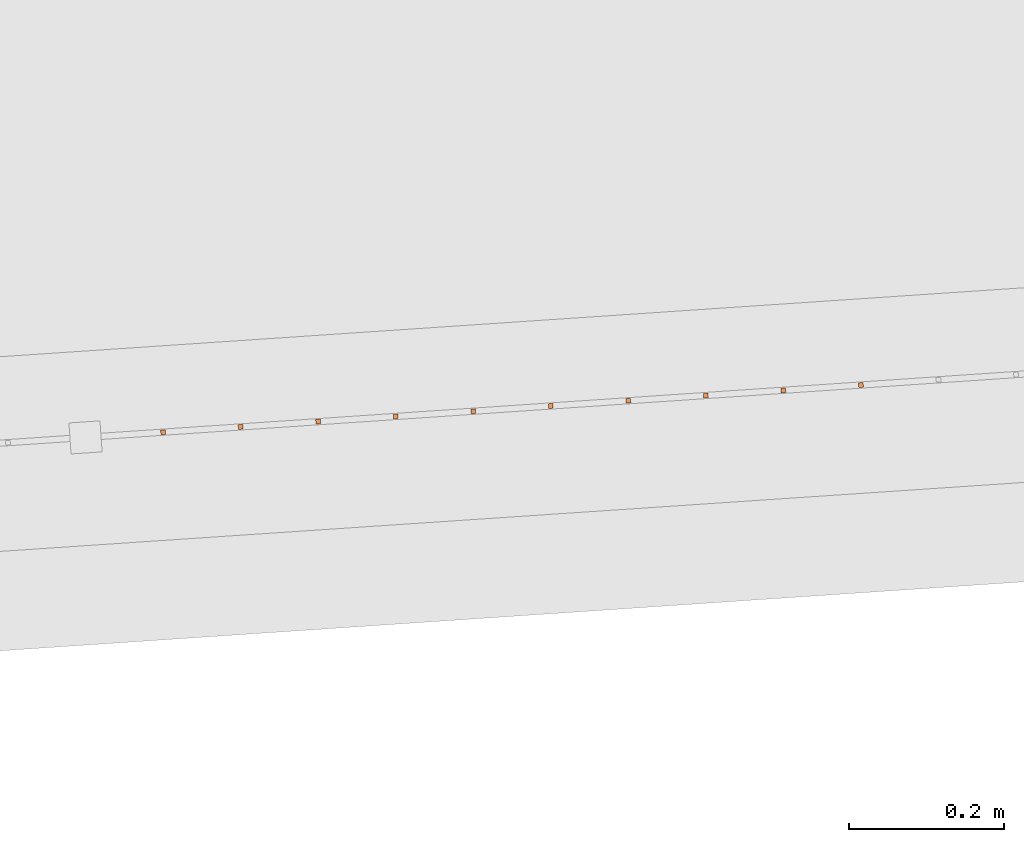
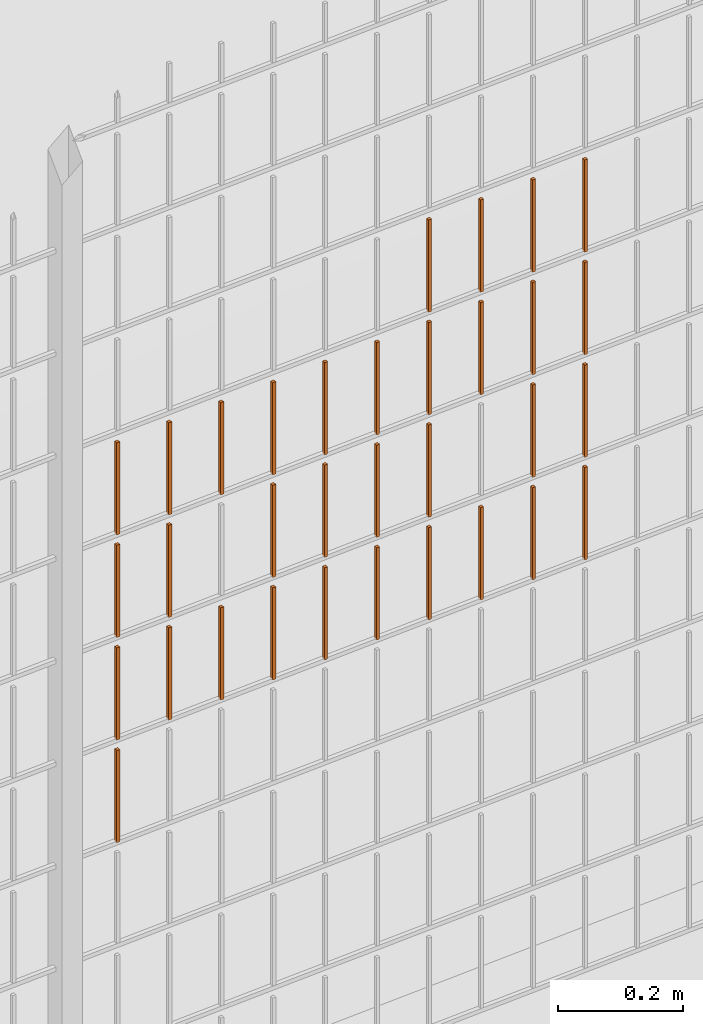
# One storey, part 197 of 1809: 33 proxies, 1 element without a shape of its own.
"""IFC2X3 building model written with IfcOpenShell, lengths in millimetres."""

from ifc_helpers import new_model, entity, si_unit, converted_unit, derived_unit, money_unit, direction, frame, origin_with_axes, place, context, subcontext, project, spatial, faceted_brep, source, transform, mapped, material, type_object, element, aggregate, save


model = new_model("IFC2X3")

# Units and contexts
model_context = context("Model", 3, precision=0.01, world=origin_with_axes(), true_north=direction((0.0, 1.0)))
body_context = subcontext(model_context, "Body", "Model", "MODEL_VIEW")
ifc_project = project(units=[si_unit("LENGTHUNIT", "METRE", prefix="MILLI"), si_unit("AREAUNIT", "SQUARE_METRE"), si_unit("VOLUMEUNIT", "CUBIC_METRE"), converted_unit("PLANEANGLEUNIT", "DEGREE", entity("IfcPlaneAngleMeasure", 0.0174532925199), si_unit("PLANEANGLEUNIT", "RADIAN"), dimensions=[0, 0, 0, 0, 0, 0, 0]), si_unit("SOLIDANGLEUNIT", "STERADIAN"), money_unit("EUR"), converted_unit("TIMEUNIT", "Year", entity("IfcTimeMeasure", 31556926.0), si_unit("TIMEUNIT", "SECOND"), dimensions=[0, 0, 1, 0, 0, 0, 0]), si_unit("MASSUNIT", "GRAM", prefix="KILO"), si_unit("THERMODYNAMICTEMPERATUREUNIT", "DEGREE_CELSIUS"), si_unit("LUMINOUSINTENSITYUNIT", "LUMEN"), si_unit("ENERGYUNIT", "JOULE", prefix="MEGA"), derived_unit("THERMALCONDUCTANCEUNIT", [(si_unit("POWERUNIT", "WATT"), 1), (si_unit("LENGTHUNIT", "METRE"), -1), (si_unit("THERMODYNAMICTEMPERATUREUNIT", "KELVIN"), -1)]), derived_unit("SPECIFICHEATCAPACITYUNIT", [(si_unit("ENERGYUNIT", "JOULE"), 1), (si_unit("MASSUNIT", "GRAM", prefix="KILO"), -1), (si_unit("THERMODYNAMICTEMPERATUREUNIT", "KELVIN"), -1)]), derived_unit("MASSDENSITYUNIT", [(si_unit("MASSUNIT", "GRAM", prefix="KILO"), 1), (si_unit("VOLUMEUNIT", "CUBIC_METRE"), -1)])], contexts=[model_context])

# Site, building, storey
site_placement = place(None, origin_with_axes())
site = spatial("IfcSite", under=ifc_project, at=site_placement, Name="Politse- ja Piirivalveameti ning Päästeameti ühishoone", CompositionType="ELEMENT")
building_placement = place(site_placement, origin_with_axes())
building = spatial("IfcBuilding", under=site, at=building_placement, Name="Politse- ja Piirivalveameti ning Päästeameti ühishoone", CompositionType="ELEMENT")
storey_placement = place(building_placement, origin_with_axes())
storey = spatial("IfcBuildingStorey", under=building, at=storey_placement, Name="Esimene korrus", CompositionType="ELEMENT", Elevation=0.0)

# Proxies
building_element_proxy_type_1 = type_object("IfcBuildingElementProxyType", Name="Railing Type", PredefinedType="NOTDEFINED")
proxy_1_placement = place(storey_placement, frame((89252.001212, -29183.4766571, 203.661247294), z_axis=(0.0, 0.0, 1.0), x_axis=(1.0, 0.0, 0.0)))
proxy_1 = element("IfcBuildingElementProxy", 1, at=proxy_1_placement, inside=storey, type_object=building_element_proxy_type_1, Name="PIIRDEAED")
ifc_material = material(Name="ET-03_Raud")
building_element_proxy_type_2 = type_object("IfcBuildingElementProxyType", Name="IfcBuildingElementProxy", PredefinedType="NOTDEFINED")
shared_shape_1 = source(origin_with_axes(), body_context, "Body", "Brep", [
    faceted_brep([(3.0, 3.0, -0.000752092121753), (-3.0, 3.0, -0.000752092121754), (-3.0, 3.0, 179.99926046), (3.0, 3.0, 179.99926046), (3.0, -3.0, 0.000752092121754), (-3.0, -3.0, 0.000752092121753), (-3.0, -3.0, 180.000764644), (3.0, -3.0, 180.000764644)], [[[0, 1, 2, 3]], [[0, 4, 5, 1]], [[1, 5, 6, 2]], [[3, 2, 6, 7]], [[4, 0, 3, 7]], [[5, 4, 7, 6]]]),
])
proxy_2_placement = place(proxy_1_placement, frame((-66375.4415557, -21781.1853468, 810.556319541), z_axis=(0.0, 0.0, 1.0), x_axis=(1.0, 0.0, 0.0)))
proxy_2 = element("IfcBuildingElementProxy", 2, at=proxy_2_placement, type_object=building_element_proxy_type_2, material=ifc_material, Name="BALUSTER - 001", context=body_context, shape_type="MappedRepresentation", body=[
    mapped(shared_shape_1, transform((0.0, 0.0, 0.0), x_axis=(-0.0673926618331, 0.997726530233, 0.0), y_axis=(-0.997726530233, -0.0673926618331, 0.0), z_axis=(0.0, 0.0, 1.0))),
])
shared_shape_2 = source(origin_with_axes(), body_context, "Body", "Brep", [
    faceted_brep([(3.0, 3.0, -0.000752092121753), (-3.0, 3.0, -0.000752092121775), (-3.0, 3.0, 179.99926046), (3.0, 3.0, 179.99926046), (3.0, -3.0, 0.000752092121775), (-3.0, -3.0, 0.000752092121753), (-3.0, -3.0, 180.000764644), (3.0, -3.0, 180.000764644)], [[[0, 1, 2, 3]], [[0, 4, 5, 1]], [[1, 5, 6, 2]], [[3, 2, 6, 7]], [[4, 0, 3, 7]], [[5, 4, 7, 6]]]),
])
proxy_3_placement = place(proxy_1_placement, frame((-66974.0774738, -21821.6209439, 1210.40590112), z_axis=(0.0, 0.0, 1.0), x_axis=(1.0, 0.0, 0.0)))
proxy_3 = element("IfcBuildingElementProxy", 3, at=proxy_3_placement, type_object=building_element_proxy_type_2, material=ifc_material, Name="BALUSTER - 001", context=body_context, shape_type="MappedRepresentation", body=[
    mapped(shared_shape_2, transform((0.0, 0.0, 0.0), x_axis=(-0.0673926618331, 0.997726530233, 0.0), y_axis=(-0.997726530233, -0.0673926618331, 0.0), z_axis=(0.0, 0.0, 1.0))),
])
shared_shape_3 = source(origin_with_axes(), body_context, "Body", "Brep", [
    faceted_brep([(3.0, 3.0, -0.000752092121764), (-3.0, 3.0, -0.000752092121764), (-3.0, 3.0, 179.99926046), (3.0, 3.0, 179.99926046), (3.0, -3.0, 0.000752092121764), (-3.0, -3.0, 0.000752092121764), (-3.0, -3.0, 180.000764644), (3.0, -3.0, 180.000764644)], [[[0, 1, 2, 3]], [[0, 4, 5, 1]], [[1, 5, 6, 2]], [[3, 2, 6, 7]], [[4, 0, 3, 7]], [[5, 4, 7, 6]]]),
])
proxy_4_placement = place(proxy_1_placement, frame((-66175.8962496, -21767.7068144, 810.606459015), z_axis=(0.0, 0.0, 1.0), x_axis=(1.0, 0.0, 0.0)))
proxy_4 = element("IfcBuildingElementProxy", 4, at=proxy_4_placement, type_object=building_element_proxy_type_2, material=ifc_material, Name="BALUSTER - 001", context=body_context, shape_type="MappedRepresentation", body=[
    mapped(shared_shape_3, transform((0.0, 0.0, 0.0), x_axis=(-0.0673926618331, 0.997726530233, 0.0), y_axis=(-0.997726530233, -0.0673926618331, 0.0), z_axis=(0.0, 0.0, 1.0))),
])
shared_shape_4 = source(origin_with_axes(), body_context, "Body", "Brep", [
    faceted_brep([(3.0, 3.0, -0.000752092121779), (-3.0, 3.0, -0.000752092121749), (-3.00000000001, 3.0, 179.99926046), (2.99999999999, 3.0, 179.99926046), (3.0, -3.0, 0.000752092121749), (-3.0, -3.0, 0.000752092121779), (-3.00000000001, -3.0, 180.000764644), (2.99999999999, -3.0, 180.000764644)], [[[0, 1, 2, 3]], [[0, 4, 5, 1]], [[1, 5, 6, 2]], [[3, 2, 6, 7]], [[4, 0, 3, 7]], [[5, 4, 7, 6]]]),
])
proxy_5_placement = place(proxy_1_placement, frame((-67073.8501268, -21828.3602101, 1010.38083138), z_axis=(0.0, 0.0, 1.0), x_axis=(1.0, 0.0, 0.0)))
proxy_5 = element("IfcBuildingElementProxy", 5, at=proxy_5_placement, type_object=building_element_proxy_type_2, material=ifc_material, Name="BALUSTER - 001", context=body_context, shape_type="MappedRepresentation", body=[
    mapped(shared_shape_4, transform((0.0, 0.0, 0.0), x_axis=(-0.0673926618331, 0.997726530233, 0.0), y_axis=(-0.997726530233, -0.0673926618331, 0.0), z_axis=(0.0, 0.0, 1.0))),
])
shared_shape_5 = source(origin_with_axes(), body_context, "Body", "Brep", [
    faceted_brep([(3.0, 3.0, -0.000752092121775), (-3.0, 3.0, -0.000752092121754), (-3.0, 3.0, 179.99926046), (3.0, 3.0, 179.99926046), (3.0, -3.0, 0.000752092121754), (-3.0, -3.0, 0.000752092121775), (-3.0, -3.0, 180.000764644), (3.0, -3.0, 180.000764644)], [[[0, 1, 2, 3]], [[0, 4, 5, 1]], [[1, 5, 6, 2]], [[3, 2, 6, 7]], [[4, 0, 3, 7]], [[5, 4, 7, 6]]]),
])
proxy_6_placement = place(proxy_1_placement, frame((-67073.8501268, -21828.3602101, 610.380831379), z_axis=(0.0, 0.0, 1.0), x_axis=(1.0, 0.0, 0.0)))
proxy_6 = element("IfcBuildingElementProxy", 6, at=proxy_6_placement, type_object=building_element_proxy_type_2, material=ifc_material, Name="BALUSTER - 001", context=body_context, shape_type="MappedRepresentation", body=[
    mapped(shared_shape_5, transform((0.0, 0.0, 0.0), x_axis=(-0.0673926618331, 0.997726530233, 0.0), y_axis=(-0.997726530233, -0.0673926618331, 0.0), z_axis=(0.0, 0.0, 1.0))),
])
shared_shape_6 = source(origin_with_axes(), body_context, "Body", "Brep", [
    faceted_brep([(3.0, 3.0, -0.000752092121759), (-3.0, 3.0, -0.000752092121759), (-3.0, 3.0, 179.99926046), (3.0, 3.0, 179.99926046), (3.0, -3.0, 0.000752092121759), (-3.0, -3.0, 0.000752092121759), (-3.0, -3.0, 180.000764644), (3.0, -3.0, 180.000764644)], [[[0, 1, 2, 3]], [[0, 4, 5, 1]], [[1, 5, 6, 2]], [[3, 2, 6, 7]], [[4, 0, 3, 7]], [[5, 4, 7, 6]]]),
])
proxy_7_placement = place(proxy_1_placement, frame((-66574.9868617, -21794.6638792, 810.506180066), z_axis=(0.0, 0.0, 1.0), x_axis=(1.0, 0.0, 0.0)))
proxy_7 = element("IfcBuildingElementProxy", 7, at=proxy_7_placement, type_object=building_element_proxy_type_2, material=ifc_material, Name="BALUSTER - 001", context=body_context, shape_type="MappedRepresentation", body=[
    mapped(shared_shape_6, transform((0.0, 0.0, 0.0), x_axis=(-0.0673926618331, 0.997726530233, 0.0), y_axis=(-0.997726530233, -0.0673926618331, 0.0), z_axis=(0.0, 0.0, 1.0))),
])
proxy_8_placement = place(proxy_1_placement, frame((-66574.9868617, -21794.6638792, 1210.50618007), z_axis=(0.0, 0.0, 1.0), x_axis=(1.0, 0.0, 0.0)))
proxy_8 = element("IfcBuildingElementProxy", 8, at=proxy_8_placement, type_object=building_element_proxy_type_2, material=ifc_material, Name="BALUSTER - 001", context=body_context, shape_type="MappedRepresentation", body=[
    mapped(shared_shape_6, transform((0.0, 0.0, 0.0), x_axis=(-0.0673926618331, 0.997726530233, 0.0), y_axis=(-0.997726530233, -0.0673926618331, 0.0), z_axis=(0.0, 0.0, 1.0))),
])
shared_shape_7 = source(origin_with_axes(), body_context, "Body", "Brep", [
    faceted_brep([(3.0, 3.0, -0.000752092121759), (-3.0, 3.0, -0.000752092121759), (-3.0, 3.0, 179.99926046), (3.0, 3.0, 179.99926046), (3.0, -3.0, 0.000752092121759), (-3.0, -3.0, 0.000752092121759), (-3.0, -3.0, 180.000764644), (3.0, -3.0, 180.000764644)], [[[0, 1, 2, 3]], [[0, 4, 5, 1]], [[1, 5, 6, 2]], [[3, 2, 6, 7]], [[4, 0, 3, 7]], [[5, 4, 7, 6]]]),
])
proxy_9_placement = place(proxy_1_placement, frame((-66275.6689027, -21774.4460806, 810.581389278), z_axis=(0.0, 0.0, 1.0), x_axis=(1.0, 0.0, 0.0)))
proxy_9 = element("IfcBuildingElementProxy", 9, at=proxy_9_placement, type_object=building_element_proxy_type_2, material=ifc_material, Name="BALUSTER - 001", context=body_context, shape_type="MappedRepresentation", body=[
    mapped(shared_shape_7, transform((0.0, 0.0, 0.0), x_axis=(-0.0673926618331, 0.997726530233, 0.0), y_axis=(-0.997726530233, -0.0673926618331, 0.0), z_axis=(0.0, 0.0, 1.0))),
])
shared_shape_8 = source(origin_with_axes(), body_context, "Body", "Brep", [
    faceted_brep([(3.0, 3.0, -0.000752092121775), (-3.0, 3.0, -0.000752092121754), (-3.0, 3.0, 179.99926046), (3.0, 3.0, 179.99926046), (3.0, -3.0, 0.000752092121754), (-3.0, -3.0, 0.000752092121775), (-3.0, -3.0, 180.000764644), (3.0, -3.0, 180.000764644)], [[[0, 1, 2, 3]], [[0, 4, 5, 1]], [[1, 5, 6, 2]], [[3, 2, 6, 7]], [[4, 0, 3, 7]], [[5, 4, 7, 6]]]),
])
proxy_10_placement = place(proxy_1_placement, frame((-66475.2142087, -21787.924613, 1210.5312498), z_axis=(0.0, 0.0, 1.0), x_axis=(1.0, 0.0, 0.0)))
proxy_10 = element("IfcBuildingElementProxy", 10, at=proxy_10_placement, type_object=building_element_proxy_type_2, material=ifc_material, Name="BALUSTER - 001", context=body_context, shape_type="MappedRepresentation", body=[
    mapped(shared_shape_8, transform((0.0, 0.0, 0.0), x_axis=(-0.0673926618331, 0.997726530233, 0.0), y_axis=(-0.997726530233, -0.0673926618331, 0.0), z_axis=(0.0, 0.0, 1.0))),
])
shared_shape_9 = source(origin_with_axes(), body_context, "Body", "Brep", [
    faceted_brep([(3.0, 3.0, -0.000752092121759), (-3.0, 3.0, -0.000752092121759), (-3.0, 3.0, 179.99926046), (3.0, 3.0, 179.99926046), (3.0, -3.0, 0.000752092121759), (-3.0, -3.0, 0.000752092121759), (-3.0, -3.0, 180.000764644), (3.0, -3.0, 180.000764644)], [[[0, 1, 2, 3]], [[0, 4, 5, 1]], [[1, 5, 6, 2]], [[3, 2, 6, 7]], [[4, 0, 3, 7]], [[5, 4, 7, 6]]]),
])
proxy_11_placement = place(proxy_1_placement, frame((-66175.8962496, -21767.7068144, 1210.60645902), z_axis=(0.0, 0.0, 1.0), x_axis=(1.0, 0.0, 0.0)))
proxy_11 = element("IfcBuildingElementProxy", 11, at=proxy_11_placement, type_object=building_element_proxy_type_2, material=ifc_material, Name="BALUSTER - 001", context=body_context, shape_type="MappedRepresentation", body=[
    mapped(shared_shape_9, transform((0.0, 0.0, 0.0), x_axis=(-0.0673926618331, 0.997726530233, 0.0), y_axis=(-0.997726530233, -0.0673926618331, 0.0), z_axis=(0.0, 0.0, 1.0))),
])
proxy_12_placement = place(proxy_1_placement, frame((-66774.5321678, -21808.1424115, 1210.45604059), z_axis=(0.0, 0.0, 1.0), x_axis=(1.0, 0.0, 0.0)))
proxy_12 = element("IfcBuildingElementProxy", 12, at=proxy_12_placement, type_object=building_element_proxy_type_2, material=ifc_material, Name="BALUSTER - 001", context=body_context, shape_type="MappedRepresentation", body=[
    mapped(shared_shape_9, transform((0.0, 0.0, 0.0), x_axis=(-0.0673926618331, 0.997726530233, 0.0), y_axis=(-0.997726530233, -0.0673926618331, 0.0), z_axis=(0.0, 0.0, 1.0))),
])
shared_shape_10 = source(origin_with_axes(), body_context, "Body", "Brep", [
    faceted_brep([(3.0, 3.0, -0.000752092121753), (-3.0, 3.0, -0.000752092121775), (-3.0, 3.0, 179.99926046), (3.0, 3.0, 179.99926046), (3.0, -3.0, 0.000752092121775), (-3.0, -3.0, 0.000752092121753), (-3.0, -3.0, 180.000764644), (3.0, -3.0, 180.000764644)], [[[0, 1, 2, 3]], [[0, 4, 5, 1]], [[1, 5, 6, 2]], [[3, 2, 6, 7]], [[4, 0, 3, 7]], [[5, 4, 7, 6]]]),
])
proxy_13_placement = place(proxy_1_placement, frame((-66874.3048208, -21814.8816777, 810.430970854), z_axis=(0.0, 0.0, 1.0), x_axis=(1.0, 0.0, 0.0)))
proxy_13 = element("IfcBuildingElementProxy", 13, at=proxy_13_placement, type_object=building_element_proxy_type_2, material=ifc_material, Name="BALUSTER - 001", context=body_context, shape_type="MappedRepresentation", body=[
    mapped(shared_shape_10, transform((0.0, 0.0, 0.0), x_axis=(-0.0673926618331, 0.997726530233, 0.0), y_axis=(-0.997726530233, -0.0673926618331, 0.0), z_axis=(0.0, 0.0, 1.0))),
])
shared_shape_11 = source(origin_with_axes(), body_context, "Body", "Brep", [
    faceted_brep([(3.0, 3.0, -0.000752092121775), (-3.0, 3.0, -0.000752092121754), (-3.0, 3.0, 179.99926046), (3.0, 3.0, 179.99926046), (3.0, -3.0, 0.000752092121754), (-3.0, -3.0, 0.000752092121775), (-3.0, -3.0, 180.000764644), (3.0, -3.0, 180.000764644)], [[[0, 1, 2, 3]], [[0, 4, 5, 1]], [[1, 5, 6, 2]], [[3, 2, 6, 7]], [[4, 0, 3, 7]], [[5, 4, 7, 6]]]),
])
proxy_14_placement = place(proxy_1_placement, frame((-66475.2142087, -21787.924613, 810.531249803), z_axis=(0.0, 0.0, 1.0), x_axis=(1.0, 0.0, 0.0)))
proxy_14 = element("IfcBuildingElementProxy", 14, at=proxy_14_placement, type_object=building_element_proxy_type_2, material=ifc_material, Name="BALUSTER - 001", context=body_context, shape_type="MappedRepresentation", body=[
    mapped(shared_shape_11, transform((0.0, 0.0, 0.0), x_axis=(-0.0673926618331, 0.997726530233, 0.0), y_axis=(-0.997726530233, -0.0673926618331, 0.0), z_axis=(0.0, 0.0, 1.0))),
])
shared_shape_12 = source(origin_with_axes(), body_context, "Body", "Brep", [
    faceted_brep([(3.0, 3.0, -0.000752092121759), (-3.0, 3.0, -0.000752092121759), (-3.0, 3.0, 179.99926046), (3.0, 3.0, 179.99926046), (3.0, -3.0, 0.000752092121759), (-3.0, -3.0, 0.000752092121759), (-3.0, -3.0, 180.000764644), (3.0, -3.0, 180.000764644)], [[[0, 1, 2, 3]], [[0, 4, 5, 1]], [[1, 5, 6, 2]], [[3, 2, 6, 7]], [[4, 0, 3, 7]], [[5, 4, 7, 6]]]),
])
proxy_15_placement = place(proxy_1_placement, frame((-66774.5321678, -21808.1424115, 810.456040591), z_axis=(0.0, 0.0, 1.0), x_axis=(1.0, 0.0, 0.0)))
proxy_15 = element("IfcBuildingElementProxy", 15, at=proxy_15_placement, type_object=building_element_proxy_type_2, material=ifc_material, Name="BALUSTER - 001", context=body_context, shape_type="MappedRepresentation", body=[
    mapped(shared_shape_12, transform((0.0, 0.0, 0.0), x_axis=(-0.0673926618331, 0.997726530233, 0.0), y_axis=(-0.997726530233, -0.0673926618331, 0.0), z_axis=(0.0, 0.0, 1.0))),
])
shared_shape_13 = source(origin_with_axes(), body_context, "Body", "Brep", [
    faceted_brep([(3.0, 3.0, -0.000752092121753), (-3.0, 3.0, -0.000752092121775), (-3.0, 3.0, 179.99926046), (3.0, 3.0, 179.99926046), (3.0, -3.0, 0.000752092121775), (-3.0, -3.0, 0.000752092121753), (-3.0, -3.0, 180.000764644), (3.0, -3.0, 180.000764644)], [[[0, 1, 2, 3]], [[0, 4, 5, 1]], [[1, 5, 6, 2]], [[3, 2, 6, 7]], [[4, 0, 3, 7]], [[5, 4, 7, 6]]]),
])
proxy_16_placement = place(proxy_1_placement, frame((-66874.3048208, -21814.8816777, 1210.43097085), z_axis=(0.0, 0.0, 1.0), x_axis=(1.0, 0.0, 0.0)))
proxy_16 = element("IfcBuildingElementProxy", 16, at=proxy_16_placement, type_object=building_element_proxy_type_2, material=ifc_material, Name="BALUSTER - 001", context=body_context, shape_type="MappedRepresentation", body=[
    mapped(shared_shape_13, transform((0.0, 0.0, 0.0), x_axis=(-0.0673926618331, 0.997726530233, 0.0), y_axis=(-0.997726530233, -0.0673926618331, 0.0), z_axis=(0.0, 0.0, 1.0))),
])
shared_shape_14 = source(origin_with_axes(), body_context, "Body", "Brep", [
    faceted_brep([(3.0, 3.0, -0.000752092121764), (-3.0, 3.0, -0.000752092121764), (-3.0, 3.0, 179.99926046), (3.0, 3.0, 179.99926046), (3.0, -3.0, 0.000752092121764), (-3.0, -3.0, 0.000752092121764), (-3.0, -3.0, 180.000764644), (3.0, -3.0, 180.000764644)], [[[0, 1, 2, 3]], [[0, 4, 5, 1]], [[1, 5, 6, 2]], [[3, 2, 6, 7]], [[4, 0, 3, 7]], [[5, 4, 7, 6]]]),
])
proxy_17_placement = place(proxy_1_placement, frame((-66375.4415557, -21781.1853468, 1210.55631954), z_axis=(0.0, 0.0, 1.0), x_axis=(1.0, 0.0, 0.0)))
proxy_17 = element("IfcBuildingElementProxy", 17, at=proxy_17_placement, type_object=building_element_proxy_type_2, material=ifc_material, Name="BALUSTER - 001", context=body_context, shape_type="MappedRepresentation", body=[
    mapped(shared_shape_14, transform((0.0, 0.0, 0.0), x_axis=(-0.0673926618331, 0.997726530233, 0.0), y_axis=(-0.997726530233, -0.0673926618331, 0.0), z_axis=(0.0, 0.0, 1.0))),
])
shared_shape_15 = source(origin_with_axes(), body_context, "Body", "Brep", [
    faceted_brep([(3.0, 3.0, -0.000752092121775), (-3.0, 3.0, -0.000752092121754), (-3.0, 3.0, 179.99926046), (3.0, 3.0, 179.99926046), (3.0, -3.0, 0.000752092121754), (-3.0, -3.0, 0.000752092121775), (-3.0, -3.0, 180.000764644), (3.0, -3.0, 180.000764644)], [[[0, 1, 2, 3]], [[0, 4, 5, 1]], [[1, 5, 6, 2]], [[3, 2, 6, 7]], [[4, 0, 3, 7]], [[5, 4, 7, 6]]]),
])
proxy_18_placement = place(proxy_1_placement, frame((-67073.8501268, -21828.3602101, 810.380831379), z_axis=(0.0, 0.0, 1.0), x_axis=(1.0, 0.0, 0.0)))
proxy_18 = element("IfcBuildingElementProxy", 18, at=proxy_18_placement, type_object=building_element_proxy_type_2, material=ifc_material, Name="BALUSTER - 001", context=body_context, shape_type="MappedRepresentation", body=[
    mapped(shared_shape_15, transform((0.0, 0.0, 0.0), x_axis=(-0.0673926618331, 0.997726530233, 0.0), y_axis=(-0.997726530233, -0.0673926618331, 0.0), z_axis=(0.0, 0.0, 1.0))),
])
proxy_19_placement = place(proxy_1_placement, frame((-67073.8501268, -21828.3602101, 1210.38083138), z_axis=(0.0, 0.0, 1.0), x_axis=(1.0, 0.0, 0.0)))
proxy_19 = element("IfcBuildingElementProxy", 19, at=proxy_19_placement, type_object=building_element_proxy_type_2, material=ifc_material, Name="BALUSTER - 001", context=body_context, shape_type="MappedRepresentation", body=[
    mapped(shared_shape_15, transform((0.0, 0.0, 0.0), x_axis=(-0.0673926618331, 0.997726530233, 0.0), y_axis=(-0.997726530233, -0.0673926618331, 0.0), z_axis=(0.0, 0.0, 1.0))),
])
shared_shape_16 = source(origin_with_axes(), body_context, "Body", "Brep", [
    faceted_brep([(3.0, 3.0, -0.000752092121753), (-3.0, 3.0, -0.000752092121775), (-3.0, 3.0, 179.99926046), (3.0, 3.0, 179.99926046), (3.0, -3.0, 0.000752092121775), (-3.0, -3.0, 0.000752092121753), (-3.0, -3.0, 180.000764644), (3.0, -3.0, 180.000764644)], [[[0, 1, 2, 3]], [[0, 4, 5, 1]], [[1, 5, 6, 2]], [[3, 2, 6, 7]], [[4, 0, 3, 7]], [[5, 4, 7, 6]]]),
])
proxy_20_placement = place(proxy_1_placement, frame((-66275.6689027, -21774.4460806, 1210.58138928), z_axis=(0.0, 0.0, 1.0), x_axis=(1.0, 0.0, 0.0)))
proxy_20 = element("IfcBuildingElementProxy", 20, at=proxy_20_placement, type_object=building_element_proxy_type_2, material=ifc_material, Name="BALUSTER - 001", context=body_context, shape_type="MappedRepresentation", body=[
    mapped(shared_shape_16, transform((0.0, 0.0, 0.0), x_axis=(-0.0673926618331, 0.997726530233, 0.0), y_axis=(-0.997726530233, -0.0673926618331, 0.0), z_axis=(0.0, 0.0, 1.0))),
])
proxy_21_placement = place(proxy_1_placement, frame((-66674.7595148, -21801.4031454, 1210.48111033), z_axis=(0.0, 0.0, 1.0), x_axis=(1.0, 0.0, 0.0)))
proxy_21 = element("IfcBuildingElementProxy", 21, at=proxy_21_placement, type_object=building_element_proxy_type_2, material=ifc_material, Name="BALUSTER - 001", context=body_context, shape_type="MappedRepresentation", body=[
    mapped(shared_shape_16, transform((0.0, 0.0, 0.0), x_axis=(-0.0673926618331, 0.997726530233, 0.0), y_axis=(-0.997726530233, -0.0673926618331, 0.0), z_axis=(0.0, 0.0, 1.0))),
])
shared_shape_17 = source(origin_with_axes(), body_context, "Body", "Brep", [
    faceted_brep([(3.0, 3.0, -0.000752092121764), (-3.0, 3.0, -0.000752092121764), (-3.0, 3.0, 179.99926046), (3.0, 3.0, 179.99926046), (3.0, -3.0, 0.000752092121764), (-3.0, -3.0, 0.000752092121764), (-3.0, -3.0, 180.000764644), (3.0, -3.0, 180.000764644)], [[[0, 1, 2, 3]], [[0, 4, 5, 1]], [[1, 5, 6, 2]], [[3, 2, 6, 7]], [[4, 0, 3, 7]], [[5, 4, 7, 6]]]),
])
proxy_22_placement = place(proxy_1_placement, frame((-66375.4415557, -21781.1853468, 1410.55631954), z_axis=(0.0, 0.0, 1.0), x_axis=(1.0, 0.0, 0.0)))
proxy_22 = element("IfcBuildingElementProxy", 22, at=proxy_22_placement, type_object=building_element_proxy_type_2, material=ifc_material, Name="BALUSTER - 001", context=body_context, shape_type="MappedRepresentation", body=[
    mapped(shared_shape_17, transform((0.0, 0.0, 0.0), x_axis=(-0.0673926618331, 0.997726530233, 0.0), y_axis=(-0.997726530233, -0.0673926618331, 0.0), z_axis=(0.0, 0.0, 1.0))),
])
shared_shape_18 = source(origin_with_axes(), body_context, "Body", "Brep", [
    faceted_brep([(3.0, 3.0, -0.000752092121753), (-3.0, 3.0, -0.000752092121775), (-3.0, 3.0, 179.99926046), (3.0, 3.0, 179.99926046), (3.0, -3.0, 0.000752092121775), (-3.0, -3.0, 0.000752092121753), (-3.0, -3.0, 180.000764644), (3.0, -3.0, 180.000764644)], [[[0, 1, 2, 3]], [[0, 4, 5, 1]], [[1, 5, 6, 2]], [[3, 2, 6, 7]], [[4, 0, 3, 7]], [[5, 4, 7, 6]]]),
])
proxy_23_placement = place(proxy_1_placement, frame((-66275.6689027, -21774.4460806, 1410.58138928), z_axis=(0.0, 0.0, 1.0), x_axis=(1.0, 0.0, 0.0)))
proxy_23 = element("IfcBuildingElementProxy", 23, at=proxy_23_placement, type_object=building_element_proxy_type_2, material=ifc_material, Name="BALUSTER - 001", context=body_context, shape_type="MappedRepresentation", body=[
    mapped(shared_shape_18, transform((0.0, 0.0, 0.0), x_axis=(-0.0673926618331, 0.997726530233, 0.0), y_axis=(-0.997726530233, -0.0673926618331, 0.0), z_axis=(0.0, 0.0, 1.0))),
])
shared_shape_19 = source(origin_with_axes(), body_context, "Body", "Brep", [
    faceted_brep([(3.0, 3.0, -0.000752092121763), (-3.0, 3.0, -0.000752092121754), (-3.00000000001, 3.0, 179.99926046), (2.99999999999, 3.0, 179.99926046), (3.0, -3.0, 0.000752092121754), (-3.0, -3.0, 0.000752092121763), (-3.00000000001, -3.0, 180.000764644), (2.99999999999, -3.0, 180.000764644)], [[[0, 1, 2, 3]], [[0, 4, 5, 1]], [[1, 5, 6, 2]], [[3, 2, 6, 7]], [[4, 0, 3, 7]], [[5, 4, 7, 6]]]),
])
proxy_24_placement = place(proxy_1_placement, frame((-66175.8962496, -21767.7068144, 1010.60645902), z_axis=(0.0, 0.0, 1.0), x_axis=(1.0, 0.0, 0.0)))
proxy_24 = element("IfcBuildingElementProxy", 24, at=proxy_24_placement, type_object=building_element_proxy_type_2, material=ifc_material, Name="BALUSTER - 001", context=body_context, shape_type="MappedRepresentation", body=[
    mapped(shared_shape_19, transform((0.0, 0.0, 0.0), x_axis=(-0.0673926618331, 0.997726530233, 0.0), y_axis=(-0.997726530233, -0.0673926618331, 0.0), z_axis=(0.0, 0.0, 1.0))),
])
shared_shape_20 = source(origin_with_axes(), body_context, "Body", "Brep", [
    faceted_brep([(3.0, 3.0, -0.000752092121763), (-3.0, 3.0, -0.000752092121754), (-3.00000000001, 3.0, 179.99926046), (2.99999999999, 3.0, 179.99926046), (3.0, -3.0, 0.000752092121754), (-3.0, -3.0, 0.000752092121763), (-3.00000000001, -3.0, 180.000764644), (2.99999999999, -3.0, 180.000764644)], [[[0, 1, 2, 3]], [[0, 4, 5, 1]], [[1, 5, 6, 2]], [[3, 2, 6, 7]], [[4, 0, 3, 7]], [[5, 4, 7, 6]]]),
])
proxy_25_placement = place(proxy_1_placement, frame((-66774.5321678, -21808.1424115, 1010.45604059), z_axis=(0.0, 0.0, 1.0), x_axis=(1.0, 0.0, 0.0)))
proxy_25 = element("IfcBuildingElementProxy", 25, at=proxy_25_placement, type_object=building_element_proxy_type_2, material=ifc_material, Name="BALUSTER - 001", context=body_context, shape_type="MappedRepresentation", body=[
    mapped(shared_shape_20, transform((0.0, 0.0, 0.0), x_axis=(-0.0673926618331, 0.997726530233, 0.0), y_axis=(-0.997726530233, -0.0673926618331, 0.0), z_axis=(0.0, 0.0, 1.0))),
])
shared_shape_21 = source(origin_with_axes(), body_context, "Body", "Brep", [
    faceted_brep([(3.0, 3.0, -0.000752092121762), (-3.0, 3.0, -0.000752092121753), (-3.00000000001, 2.99999999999, 179.99926046), (2.99999999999, 2.99999999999, 179.99926046), (3.0, -3.0, 0.000752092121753), (-3.0, -3.0, 0.000752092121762), (-3.00000000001, -3.00000000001, 180.000764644), (2.99999999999, -3.00000000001, 180.000764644)], [[[0, 1, 2, 3]], [[0, 4, 5, 1]], [[1, 5, 6, 2]], [[3, 2, 6, 7]], [[4, 0, 3, 7]], [[5, 4, 7, 6]]]),
])
proxy_26_placement = place(proxy_1_placement, frame((-66974.0774738, -21821.6209439, 1010.40590112), z_axis=(0.0, 0.0, 1.0), x_axis=(1.0, 0.0, 0.0)))
proxy_26 = element("IfcBuildingElementProxy", 26, at=proxy_26_placement, type_object=building_element_proxy_type_2, material=ifc_material, Name="BALUSTER - 001", context=body_context, shape_type="MappedRepresentation", body=[
    mapped(shared_shape_21, transform((0.0, 0.0, 0.0), x_axis=(-0.0673926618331, 0.997726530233, 0.0), y_axis=(-0.997726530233, -0.0673926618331, 0.0), z_axis=(0.0, 0.0, 1.0))),
])
shared_shape_22 = source(origin_with_axes(), body_context, "Body", "Brep", [
    faceted_brep([(3.0, 3.0, -0.000752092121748), (-3.0, 3.0, -0.00075209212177), (-3.0, 3.0, 179.99926046), (3.0, 3.0, 179.99926046), (3.0, -3.0, 0.00075209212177), (-3.0, -3.0, 0.000752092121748), (-3.0, -3.0, 180.000764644), (3.0, -3.0, 180.000764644)], [[[0, 1, 2, 3]], [[0, 4, 5, 1]], [[1, 5, 6, 2]], [[3, 2, 6, 7]], [[4, 0, 3, 7]], [[5, 4, 7, 6]]]),
])
proxy_27_placement = place(proxy_1_placement, frame((-66674.7595148, -21801.4031454, 810.481110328), z_axis=(0.0, 0.0, 1.0), x_axis=(1.0, 0.0, 0.0)))
proxy_27 = element("IfcBuildingElementProxy", 27, at=proxy_27_placement, type_object=building_element_proxy_type_2, material=ifc_material, Name="BALUSTER - 001", context=body_context, shape_type="MappedRepresentation", body=[
    mapped(shared_shape_22, transform((0.0, 0.0, 0.0), x_axis=(-0.0673926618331, 0.997726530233, 0.0), y_axis=(-0.997726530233, -0.0673926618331, 0.0), z_axis=(0.0, 0.0, 1.0))),
])
shared_shape_23 = source(origin_with_axes(), body_context, "Body", "Brep", [
    faceted_brep([(3.0, 3.0, -0.000752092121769), (-3.0, 3.0, -0.000752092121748), (-3.0, 3.0, 179.99926046), (3.0, 3.0, 179.99926046), (3.0, -3.0, 0.000752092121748), (-3.0, -3.0, 0.000752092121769), (-3.0, -3.0, 180.000764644), (3.0, -3.0, 180.000764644)], [[[0, 1, 2, 3]], [[0, 4, 5, 1]], [[1, 5, 6, 2]], [[3, 2, 6, 7]], [[4, 0, 3, 7]], [[5, 4, 7, 6]]]),
])
proxy_28_placement = place(proxy_1_placement, frame((-66974.0774738, -21821.6209439, 810.405901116), z_axis=(0.0, 0.0, 1.0), x_axis=(1.0, 0.0, 0.0)))
proxy_28 = element("IfcBuildingElementProxy", 28, at=proxy_28_placement, type_object=building_element_proxy_type_2, material=ifc_material, Name="BALUSTER - 001", context=body_context, shape_type="MappedRepresentation", body=[
    mapped(shared_shape_23, transform((0.0, 0.0, 0.0), x_axis=(-0.0673926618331, 0.997726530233, 0.0), y_axis=(-0.997726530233, -0.0673926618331, 0.0), z_axis=(0.0, 0.0, 1.0))),
])
shared_shape_24 = source(origin_with_axes(), body_context, "Body", "Brep", [
    faceted_brep([(3.0, 3.0, -0.000752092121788), (-3.0, 3.0, -0.000752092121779), (-3.00000000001, 3.0, 179.99926046), (2.99999999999, 3.0, 179.99926046), (3.0, -3.0, 0.000752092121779), (-3.0, -3.0, 0.000752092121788), (-3.00000000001, -3.0, 180.000764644), (2.99999999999, -3.0, 180.000764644)], [[[0, 1, 2, 3]], [[0, 4, 5, 1]], [[1, 5, 6, 2]], [[3, 2, 6, 7]], [[4, 0, 3, 7]], [[5, 4, 7, 6]]]),
])
proxy_29_placement = place(proxy_1_placement, frame((-66275.6689027, -21774.4460806, 1010.58138928), z_axis=(0.0, 0.0, 1.0), x_axis=(1.0, 0.0, 0.0)))
proxy_29 = element("IfcBuildingElementProxy", 29, at=proxy_29_placement, type_object=building_element_proxy_type_2, material=ifc_material, Name="BALUSTER - 001", context=body_context, shape_type="MappedRepresentation", body=[
    mapped(shared_shape_24, transform((0.0, 0.0, 0.0), x_axis=(-0.0673926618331, 0.997726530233, 0.0), y_axis=(-0.997726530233, -0.0673926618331, 0.0), z_axis=(0.0, 0.0, 1.0))),
])
proxy_30_placement = place(proxy_1_placement, frame((-66574.9868617, -21794.6638792, 1010.50618007), z_axis=(0.0, 0.0, 1.0), x_axis=(1.0, 0.0, 0.0)))
proxy_30 = element("IfcBuildingElementProxy", 30, at=proxy_30_placement, type_object=building_element_proxy_type_2, material=ifc_material, Name="BALUSTER - 001", context=body_context, shape_type="MappedRepresentation", body=[
    mapped(shared_shape_24, transform((0.0, 0.0, 0.0), x_axis=(-0.0673926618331, 0.997726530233, 0.0), y_axis=(-0.997726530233, -0.0673926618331, 0.0), z_axis=(0.0, 0.0, 1.0))),
])
shared_shape_25 = source(origin_with_axes(), body_context, "Body", "Brep", [
    faceted_brep([(3.0, 3.0, -0.000752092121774), (-3.0, 3.0, -0.000752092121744), (-3.00000000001, 3.0, 179.99926046), (2.99999999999, 3.0, 179.99926046), (3.0, -3.0, 0.000752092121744), (-3.0, -3.0, 0.000752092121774), (-3.00000000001, -3.0, 180.000764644), (2.99999999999, -3.0, 180.000764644)], [[[0, 1, 2, 3]], [[0, 4, 5, 1]], [[1, 5, 6, 2]], [[3, 2, 6, 7]], [[4, 0, 3, 7]], [[5, 4, 7, 6]]]),
])
proxy_31_placement = place(proxy_1_placement, frame((-66475.2142087, -21787.924613, 1010.5312498), z_axis=(0.0, 0.0, 1.0), x_axis=(1.0, 0.0, 0.0)))
proxy_31 = element("IfcBuildingElementProxy", 31, at=proxy_31_placement, type_object=building_element_proxy_type_2, material=ifc_material, Name="BALUSTER - 001", context=body_context, shape_type="MappedRepresentation", body=[
    mapped(shared_shape_25, transform((0.0, 0.0, 0.0), x_axis=(-0.0673926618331, 0.997726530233, 0.0), y_axis=(-0.997726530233, -0.0673926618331, 0.0), z_axis=(0.0, 0.0, 1.0))),
])
shared_shape_26 = source(origin_with_axes(), body_context, "Body", "Brep", [
    faceted_brep([(3.0, 3.0, -0.000752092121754), (-3.0, 3.0, -0.000752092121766), (-3.00000000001, 3.00000000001, 179.99926046), (2.99999999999, 3.00000000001, 179.99926046), (3.0, -3.0, 0.000752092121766), (-3.0, -3.0, 0.000752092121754), (-3.00000000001, -2.99999999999, 180.000764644), (2.99999999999, -2.99999999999, 180.000764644)], [[[0, 1, 2, 3]], [[0, 4, 5, 1]], [[1, 5, 6, 2]], [[3, 2, 6, 7]], [[4, 0, 3, 7]], [[5, 4, 7, 6]]]),
])
proxy_32_placement = place(proxy_1_placement, frame((-66674.7595148, -21801.4031454, 1010.48111033), z_axis=(0.0, 0.0, 1.0), x_axis=(1.0, 0.0, 0.0)))
proxy_32 = element("IfcBuildingElementProxy", 32, at=proxy_32_placement, type_object=building_element_proxy_type_2, material=ifc_material, Name="BALUSTER - 001", context=body_context, shape_type="MappedRepresentation", body=[
    mapped(shared_shape_26, transform((0.0, 0.0, 0.0), x_axis=(-0.0673926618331, 0.997726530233, 0.0), y_axis=(-0.997726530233, -0.0673926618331, 0.0), z_axis=(0.0, 0.0, 1.0))),
])
shared_shape_27 = source(origin_with_axes(), body_context, "Body", "Brep", [
    faceted_brep([(3.0, 3.0, -0.000752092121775), (-3.0, 3.0, -0.000752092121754), (-3.0, 3.0, 179.99926046), (3.0, 3.0, 179.99926046), (3.0, -3.0, 0.000752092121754), (-3.0, -3.0, 0.000752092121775), (-3.0, -3.0, 180.000764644), (3.0, -3.0, 180.000764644)], [[[0, 1, 2, 3]], [[0, 4, 5, 1]], [[1, 5, 6, 2]], [[3, 2, 6, 7]], [[4, 0, 3, 7]], [[5, 4, 7, 6]]]),
])
proxy_33_placement = place(proxy_1_placement, frame((-66475.2142087, -21787.924613, 1410.5312498), z_axis=(0.0, 0.0, 1.0), x_axis=(1.0, 0.0, 0.0)))
proxy_33 = element("IfcBuildingElementProxy", 33, at=proxy_33_placement, type_object=building_element_proxy_type_2, material=ifc_material, Name="BALUSTER - 001", context=body_context, shape_type="MappedRepresentation", body=[
    mapped(shared_shape_27, transform((0.0, 0.0, 0.0), x_axis=(-0.0673926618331, 0.997726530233, 0.0), y_axis=(-0.997726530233, -0.0673926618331, 0.0), z_axis=(0.0, 0.0, 1.0))),
])
shared_shape_28 = source(origin_with_axes(), body_context, "Body", "Brep", [
    faceted_brep([(3.0, 3.0, -0.000752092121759), (-3.0, 3.0, -0.000752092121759), (-3.0, 3.0, 179.99926046), (3.0, 3.0, 179.99926046), (3.0, -3.0, 0.000752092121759), (-3.0, -3.0, 0.000752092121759), (-3.0, -3.0, 180.000764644), (3.0, -3.0, 180.000764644)], [[[0, 1, 2, 3]], [[0, 4, 5, 1]], [[1, 5, 6, 2]], [[3, 2, 6, 7]], [[4, 0, 3, 7]], [[5, 4, 7, 6]]]),
])
proxy_34_placement = place(proxy_1_placement, frame((-66175.8962496, -21767.7068144, 1410.60645902), z_axis=(0.0, 0.0, 1.0), x_axis=(1.0, 0.0, 0.0)))
proxy_34 = element("IfcBuildingElementProxy", 34, at=proxy_34_placement, type_object=building_element_proxy_type_2, material=ifc_material, Name="BALUSTER - 001", context=body_context, shape_type="MappedRepresentation", body=[
    mapped(shared_shape_28, transform((0.0, 0.0, 0.0), x_axis=(-0.0673926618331, 0.997726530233, 0.0), y_axis=(-0.997726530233, -0.0673926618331, 0.0), z_axis=(0.0, 0.0, 1.0))),
])
aggregate(proxy_1, [proxy_6, proxy_4, proxy_9, proxy_2, proxy_14, proxy_7, proxy_27, proxy_15, proxy_13, proxy_28, proxy_18, proxy_24, proxy_29, proxy_31, proxy_30, proxy_32, proxy_25, proxy_26, proxy_5, proxy_11, proxy_20, proxy_17, proxy_10, proxy_8, proxy_21, proxy_12, proxy_16, proxy_3, proxy_19, proxy_34, proxy_23, proxy_22, proxy_33])

save(model, "model.ifc")
